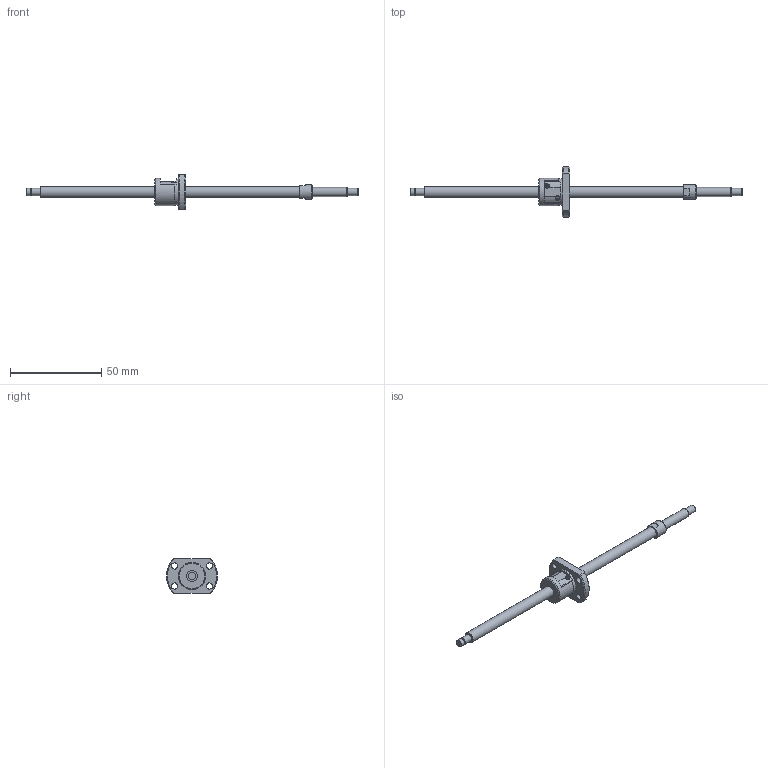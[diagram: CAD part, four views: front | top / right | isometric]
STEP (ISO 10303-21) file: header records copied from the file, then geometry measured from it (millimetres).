
FILE_DESCRIPTION(/* description */ ('STEP AP214'),/* implementation_level */ '2;1');
FILE_NAME(/* name */ 'SRT0602-138R182C7B0X(62.5Processing)',/* time_stamp */ '2026-08-04T17:55:14+02:00',/* author */ ('License CC BY-ND 4.0'),/* organization */ ('CADENAS'),/* preprocessor_version */ 'ST-DEVELOPER v20',/* originating_system */ 'PARTsolutions',/* authorisation */ ' ');
FILE_SCHEMA (('AUTOMOTIVE_DESIGN {1 0 10303 214 3 1 1}'));
Length unit declared in the file: millimetre
Products named in the file (3): SRT0602-138R182C7B0X(62.5Processing); SRT0602-138R220BCt7Processing17Shaft; SRT0602Nut
Assembly tree (2 placements, depth 2):
  SRT0602-138R182C7B0X(62.5Processing)
    SRT0602-138R220BCt7Processing17Shaft
    SRT0602Nut
Bounding box: 182 x 27.9 x 19 mm (x, y, z)
Volume: 8352 mm3; surface area: 5700.9 mm2
Topology: 2 solids, 2 shells, 72 faces, 166 edges, 107 vertices
Faces by surface type: plane 35, cylinder 20, cone 16, torus 1
Full cylindrical faces by diameter (mm): 2 x2, 3.4 x4, 3.7 x1, 4 x3, 5 x1, 6 x2, 8 x1, 14.5 x1, 15 x1
Entity records: 1965 total; most frequent: CARTESIAN_POINT 377, DIRECTION 330, ORIENTED_EDGE 264, AXIS2_PLACEMENT_3D 143, EDGE_CURVE 132, EDGE_LOOP 114, FACE_BOUND 114, VERTEX_POINT 96
